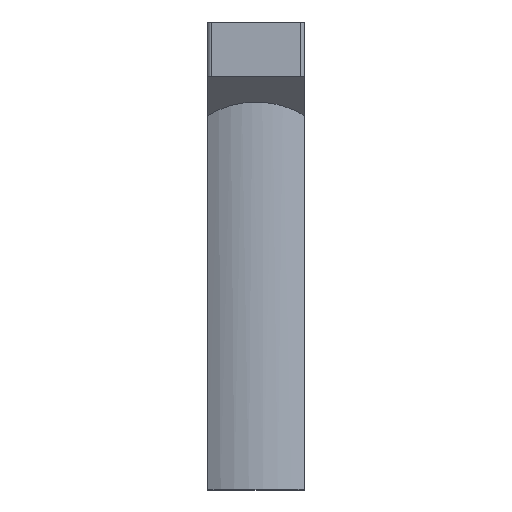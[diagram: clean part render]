
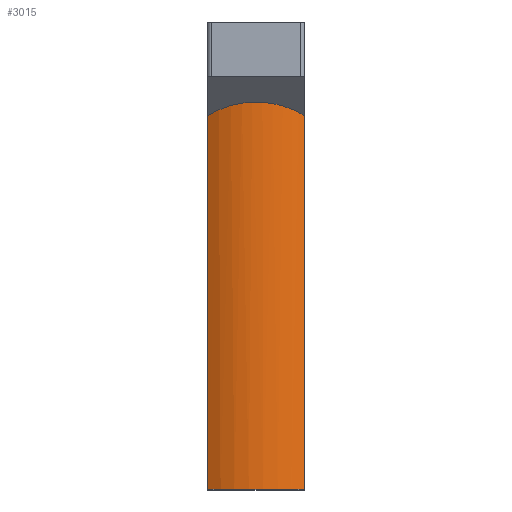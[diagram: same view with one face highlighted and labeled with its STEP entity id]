
A CAD part, top view. The second image highlights one B-rep face of the part: STEP entity #3015.
In plain terms, the highlighted cylindrical face has radius 12 mm (diameter 24 mm), a partial arc.
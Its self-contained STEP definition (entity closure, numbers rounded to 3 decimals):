
#40=ELLIPSE('',#3214,16.971,12.);
#50=CIRCLE('',#3215,12.);
#136=CYLINDRICAL_SURFACE('',#3213,12.);
#283=ORIENTED_EDGE('',*,*,#1133,.F.);
#284=ORIENTED_EDGE('',*,*,#1134,.T.);
#285=ORIENTED_EDGE('',*,*,#1135,.T.);
#286=ORIENTED_EDGE('',*,*,#1136,.F.);
#1133=EDGE_CURVE('',#1553,#1554,#40,.T.);
#1134=EDGE_CURVE('',#1553,#1555,#1851,.T.);
#1135=EDGE_CURVE('',#1555,#1556,#50,.T.);
#1136=EDGE_CURVE('',#1554,#1556,#1852,.T.);
#1553=VERTEX_POINT('',#4528);
#1554=VERTEX_POINT('',#4529);
#1555=VERTEX_POINT('',#4531);
#1556=VERTEX_POINT('',#4533);
#1851=LINE('',#4530,#2190);
#1852=LINE('',#4534,#2191);
#2190=VECTOR('',#3599,1000.);
#2191=VECTOR('',#3602,1000.);
#2459=EDGE_LOOP('',(#283,#284,#285,#286));
#2679=FACE_BOUND('',#2459,.T.);
#3015=ADVANCED_FACE('',(#2679),#136,.T.);
#3213=AXIS2_PLACEMENT_3D('',#4526,#3595,#3596);
#3214=AXIS2_PLACEMENT_3D('',#4527,#3597,#3598);
#3215=AXIS2_PLACEMENT_3D('',#4532,#3600,#3601);
#3595=DIRECTION('',(0.,1.,0.));
#3596=DIRECTION('',(0.,0.,-1.));
#3597=DIRECTION('',(0.,0.707,-0.707));
#3598=DIRECTION('',(0.,-0.707,-0.707));
#3599=DIRECTION('',(0.,-1.,0.));
#3600=DIRECTION('',(0.,1.,0.));
#3601=DIRECTION('',(1.,0.,0.));
#3602=DIRECTION('',(0.,-1.,0.));
#4526=CARTESIAN_POINT('',(-0.402,36.198,10.854));
#4527=CARTESIAN_POINT('',(-0.402,19.,10.854));
#4528=CARTESIAN_POINT('',(-6.652,29.244,21.098));
#4529=CARTESIAN_POINT('',(5.848,29.244,21.098));
#4530=CARTESIAN_POINT('',(-6.652,36.198,21.098));
#4531=CARTESIAN_POINT('',(-6.652,-19.,21.098));
#4532=CARTESIAN_POINT('',(-0.402,-19.,10.854));
#4533=CARTESIAN_POINT('',(5.848,-19.,21.098));
#4534=CARTESIAN_POINT('',(5.848,36.198,21.098));
